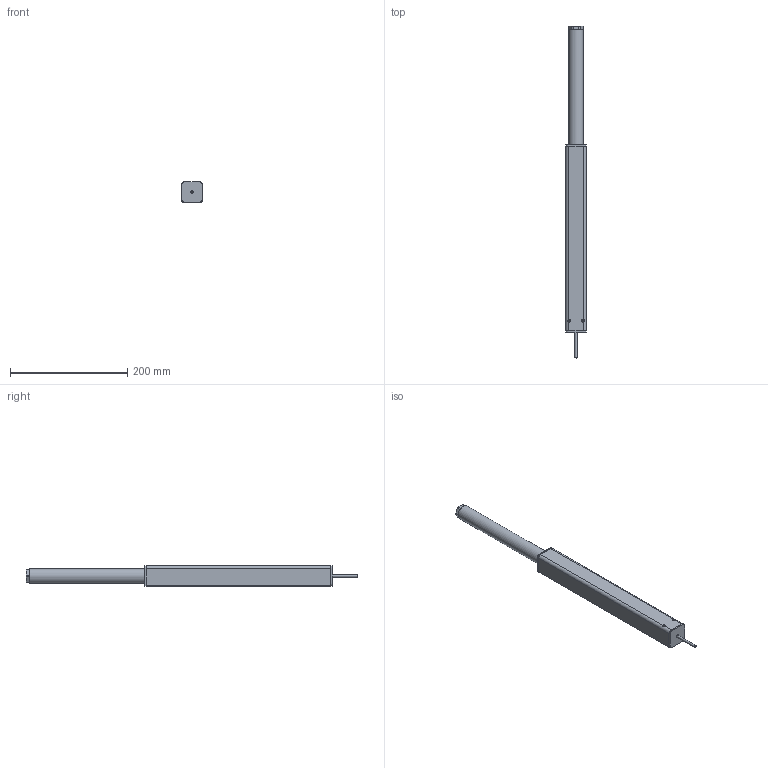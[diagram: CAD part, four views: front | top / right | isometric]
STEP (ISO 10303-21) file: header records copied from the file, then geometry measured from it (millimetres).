
FILE_DESCRIPTION(/* description */ ('Unknown'),/* implementation_level */ '2;1');
FILE_NAME(/* name */ '106.20002 Lineareinheit LA 1820_ausgefahren',/* time_stamp */ '2017-08-24T11:41:28+02:00',/* author */ ('Unknown'),/* organization */ ('Unknown'),/* preprocessor_version */ 'ST-DEVELOPER v16.7',/* originating_system */ 'DEX',/* authorisation */ $);
FILE_SCHEMA (('AUTOMOTIVE_DESIGN {1 0 10303 214 3 1 1}'));
Products named in the file (9): 106.20002; 119.00002; 142.00014; 115.00008; 142.00011; 122.00018; 125.00051; 123.00002; 113.00002_70mm
Assembly tree (9 placements, depth 2):
  106.20002
    119.00002
    142.00014  x2
    115.00008
    142.00011
    122.00018
    125.00051
    123.00002
    113.00002_70mm
Bounding box: 35 x 565.5 x 35 mm (x, y, z)
Volume: 233132.4 mm3; surface area: 160013 mm2
Topology: 8 solids, 8 shells, 776 faces, 1818 edges, 1082 vertices
Faces by surface type: cylinder 273, bspline 224, plane 204, cone 36, torus 27, sphere 12
Full cylindrical faces by diameter (mm): 2.2 x1, 4 x7, 4.134 x4, 5 x1, 6.647 x1, 8.376 x1, 17.3 x1, 19 x1, 20.8 x3, 21 x1, 25 x1, 28.3 x1, 30.4 x1, 30.63 x1
Entity records: 74513 total; most frequent: CARTESIAN_POINT 58862, ORIENTED_EDGE 3422, DIRECTION 2541, EDGE_CURVE 1711, VERTEX_POINT 1037, AXIS2_PLACEMENT_3D 983, EDGE_LOOP 858, FACE_BOUND 858
